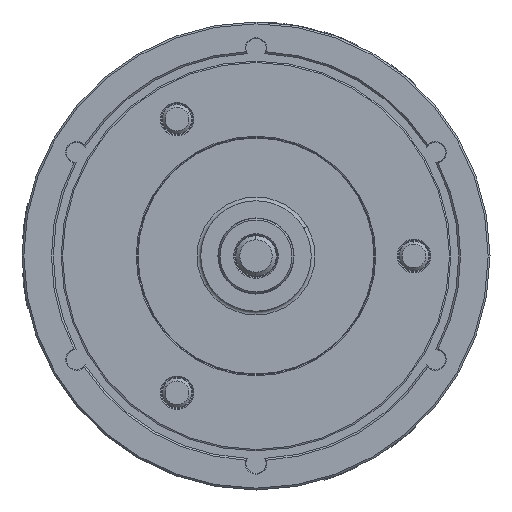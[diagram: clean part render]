
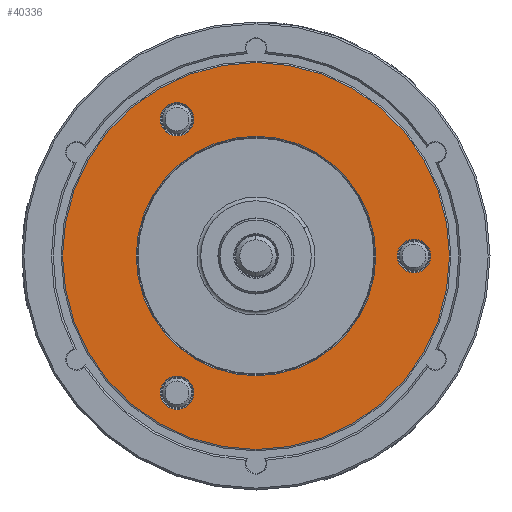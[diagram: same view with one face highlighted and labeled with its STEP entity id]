
A CAD part, left-side view. The second image highlights one B-rep face of the part: STEP entity #40336.
In plain terms, the highlighted planar face has unit normal (-1, 0, 0).
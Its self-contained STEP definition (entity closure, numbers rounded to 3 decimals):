
#218 = EDGE_LOOP ( 'NONE', ( #46319, #41774 ) ) ;
#462 = ORIENTED_EDGE ( 'NONE', *, *, #2330, .T. ) ;
#1416 = CARTESIAN_POINT ( 'NONE',  ( -100., 42.862, -74.24 ) ) ;
#1884 = DIRECTION ( 'NONE',  ( 0., 0., -1. ) ) ;
#1897 = EDGE_CURVE ( 'NONE', #14206, #16543, #41916, .T. ) ;
#2224 = EDGE_CURVE ( 'NONE', #42024, #8691, #6545, .T. ) ;
#2330 = EDGE_CURVE ( 'NONE', #8691, #42024, #15814, .T. ) ;
#2852 = CARTESIAN_POINT ( 'NONE',  ( -100., 42.862, -83.34 ) ) ;
#2965 = CARTESIAN_POINT ( 'NONE',  ( -100., 42.863, 83.34 ) ) ;
#3503 = DIRECTION ( 'NONE',  ( 1., 0., 0. ) ) ;
#3806 = CARTESIAN_POINT ( 'NONE',  ( -100., 0., 0. ) ) ;
#4001 = AXIS2_PLACEMENT_3D ( 'NONE', #41501, #42659, #9466 ) ;
#4463 = CARTESIAN_POINT ( 'NONE',  ( -100., -85.725, 0. ) ) ;
#5040 = CIRCLE ( 'NONE', #42686, 9.1 ) ;
#5926 = DIRECTION ( 'NONE',  ( 0., 0., -1. ) ) ;
#6376 = CARTESIAN_POINT ( 'NONE',  ( -100., 0., 0. ) ) ;
#6436 = ORIENTED_EDGE ( 'NONE', *, *, #45539, .T. ) ;
#6545 = CIRCLE ( 'NONE', #33481, 9.1 ) ;
#6944 = VERTEX_POINT ( 'NONE', #43826 ) ;
#7659 = DIRECTION ( 'NONE',  ( 0., 0., -1. ) ) ;
#8241 = CARTESIAN_POINT ( 'NONE',  ( -100., 42.863, 65.14 ) ) ;
#8632 = CIRCLE ( 'NONE', #27098, 105. ) ;
#8691 = VERTEX_POINT ( 'NONE', #2965 ) ;
#8822 = FACE_BOUND ( 'NONE', #218, .T. ) ;
#9466 = DIRECTION ( 'NONE',  ( 0., 0., -1. ) ) ;
#9658 = AXIS2_PLACEMENT_3D ( 'NONE', #20543, #33004, #35229 ) ;
#10788 = DIRECTION ( 'NONE',  ( 0., 0., -1. ) ) ;
#11170 = AXIS2_PLACEMENT_3D ( 'NONE', #17987, #43736, #10788 ) ;
#11358 = VERTEX_POINT ( 'NONE', #2852 ) ;
#12811 = EDGE_LOOP ( 'NONE', ( #29120, #21475 ) ) ;
#12932 = FACE_OUTER_BOUND ( 'NONE', #12811, .T. ) ;
#12981 = ORIENTED_EDGE ( 'NONE', *, *, #2224, .T. ) ;
#13614 = EDGE_CURVE ( 'NONE', #21053, #6944, #24764, .T. ) ;
#14206 = VERTEX_POINT ( 'NONE', #28609 ) ;
#14325 = EDGE_CURVE ( 'NONE', #6944, #21053, #8632, .T. ) ;
#14622 = CIRCLE ( 'NONE', #20752, 9.1 ) ;
#14767 = EDGE_CURVE ( 'NONE', #28412, #31567, #14622, .T. ) ;
#14789 = CARTESIAN_POINT ( 'NONE',  ( -100., -85.725, -9.1 ) ) ;
#15781 = AXIS2_PLACEMENT_3D ( 'NONE', #16769, #31463, #5926 ) ;
#15814 = CIRCLE ( 'NONE', #9658, 9.1 ) ;
#16289 = DIRECTION ( 'NONE',  ( 0., 0., -1. ) ) ;
#16543 = VERTEX_POINT ( 'NONE', #46352 ) ;
#16769 = CARTESIAN_POINT ( 'NONE',  ( -100., 0., 0. ) ) ;
#17987 = CARTESIAN_POINT ( 'NONE',  ( -100., 42.862, -74.24 ) ) ;
#18192 = DIRECTION ( 'NONE',  ( 0., 0., -1. ) ) ;
#19154 = DIRECTION ( 'NONE',  ( 0., 0., -1. ) ) ;
#20543 = CARTESIAN_POINT ( 'NONE',  ( -100., 42.863, 74.24 ) ) ;
#20695 = DIRECTION ( 'NONE',  ( 1., 0., 0. ) ) ;
#20752 = AXIS2_PLACEMENT_3D ( 'NONE', #4463, #28395, #19154 ) ;
#21053 = VERTEX_POINT ( 'NONE', #31099 ) ;
#21475 = ORIENTED_EDGE ( 'NONE', *, *, #13614, .F. ) ;
#22189 = AXIS2_PLACEMENT_3D ( 'NONE', #1416, #20695, #1884 ) ;
#22720 = CIRCLE ( 'NONE', #11170, 9.1 ) ;
#23284 = PLANE ( 'NONE',  #43426 ) ;
#23519 = CARTESIAN_POINT ( 'NONE',  ( -100., -105., 0. ) ) ;
#24495 = CIRCLE ( 'NONE', #22189, 9.1 ) ;
#24764 = CIRCLE ( 'NONE', #4001, 105. ) ;
#25107 = EDGE_LOOP ( 'NONE', ( #29315, #6436 ) ) ;
#27098 = AXIS2_PLACEMENT_3D ( 'NONE', #3806, #43968, #7659 ) ;
#27361 = FACE_BOUND ( 'NONE', #25107, .T. ) ;
#28395 = DIRECTION ( 'NONE',  ( 1., 0., 0. ) ) ;
#28412 = VERTEX_POINT ( 'NONE', #34907 ) ;
#28609 = CARTESIAN_POINT ( 'NONE',  ( -100., 56.292, -32.5 ) ) ;
#29120 = ORIENTED_EDGE ( 'NONE', *, *, #14325, .F. ) ;
#29315 = ORIENTED_EDGE ( 'NONE', *, *, #1897, .T. ) ;
#29368 = EDGE_LOOP ( 'NONE', ( #38406, #31995 ) ) ;
#31099 = CARTESIAN_POINT ( 'NONE',  ( -100., 90.933, -52.5 ) ) ;
#31463 = DIRECTION ( 'NONE',  ( 1., 0., 0. ) ) ;
#31567 = VERTEX_POINT ( 'NONE', #14789 ) ;
#31697 = DIRECTION ( 'NONE',  ( 1., 0., 0. ) ) ;
#31995 = ORIENTED_EDGE ( 'NONE', *, *, #32613, .T. ) ;
#32613 = EDGE_CURVE ( 'NONE', #31567, #28412, #5040, .T. ) ;
#33004 = DIRECTION ( 'NONE',  ( 1., 0., 0. ) ) ;
#33481 = AXIS2_PLACEMENT_3D ( 'NONE', #42393, #38547, #39251 ) ;
#34907 = CARTESIAN_POINT ( 'NONE',  ( -100., -85.725, 9.1 ) ) ;
#35229 = DIRECTION ( 'NONE',  ( 0., 0., -1. ) ) ;
#35857 = EDGE_CURVE ( 'NONE', #11358, #40090, #24495, .T. ) ;
#36005 = DIRECTION ( 'NONE',  ( 0., 0., -1. ) ) ;
#37089 = EDGE_LOOP ( 'NONE', ( #462, #12981 ) ) ;
#38261 = EDGE_CURVE ( 'NONE', #40090, #11358, #22720, .T. ) ;
#38406 = ORIENTED_EDGE ( 'NONE', *, *, #14767, .T. ) ;
#38547 = DIRECTION ( 'NONE',  ( 1., 0., 0. ) ) ;
#38662 = FACE_BOUND ( 'NONE', #37089, .T. ) ;
#39251 = DIRECTION ( 'NONE',  ( 0., 0., -1. ) ) ;
#39409 = CARTESIAN_POINT ( 'NONE',  ( -100., 42.862, -65.14 ) ) ;
#40090 = VERTEX_POINT ( 'NONE', #39409 ) ;
#40336 = ADVANCED_FACE ( 'NONE', ( #46123, #38662, #12932, #27361, #8822 ), #23284, .F. ) ;
#40372 = AXIS2_PLACEMENT_3D ( 'NONE', #6376, #46588, #36005 ) ;
#41501 = CARTESIAN_POINT ( 'NONE',  ( -100., 0., 0. ) ) ;
#41774 = ORIENTED_EDGE ( 'NONE', *, *, #35857, .T. ) ;
#41916 = CIRCLE ( 'NONE', #15781, 65. ) ;
#42024 = VERTEX_POINT ( 'NONE', #8241 ) ;
#42393 = CARTESIAN_POINT ( 'NONE',  ( -100., 42.863, 74.24 ) ) ;
#42659 = DIRECTION ( 'NONE',  ( 1., 0., 0. ) ) ;
#42686 = AXIS2_PLACEMENT_3D ( 'NONE', #44157, #3503, #18192 ) ;
#43426 = AXIS2_PLACEMENT_3D ( 'NONE', #23519, #31697, #16289 ) ;
#43736 = DIRECTION ( 'NONE',  ( 1., 0., 0. ) ) ;
#43826 = CARTESIAN_POINT ( 'NONE',  ( -100., -90.933, 52.5 ) ) ;
#43968 = DIRECTION ( 'NONE',  ( 1., 0., 0. ) ) ;
#44157 = CARTESIAN_POINT ( 'NONE',  ( -100., -85.725, 0. ) ) ;
#45539 = EDGE_CURVE ( 'NONE', #16543, #14206, #45756, .T. ) ;
#45756 = CIRCLE ( 'NONE', #40372, 65. ) ;
#46123 = FACE_BOUND ( 'NONE', #29368, .T. ) ;
#46319 = ORIENTED_EDGE ( 'NONE', *, *, #38261, .T. ) ;
#46352 = CARTESIAN_POINT ( 'NONE',  ( -100., -56.292, 32.5 ) ) ;
#46588 = DIRECTION ( 'NONE',  ( 1., 0., 0. ) ) ;
